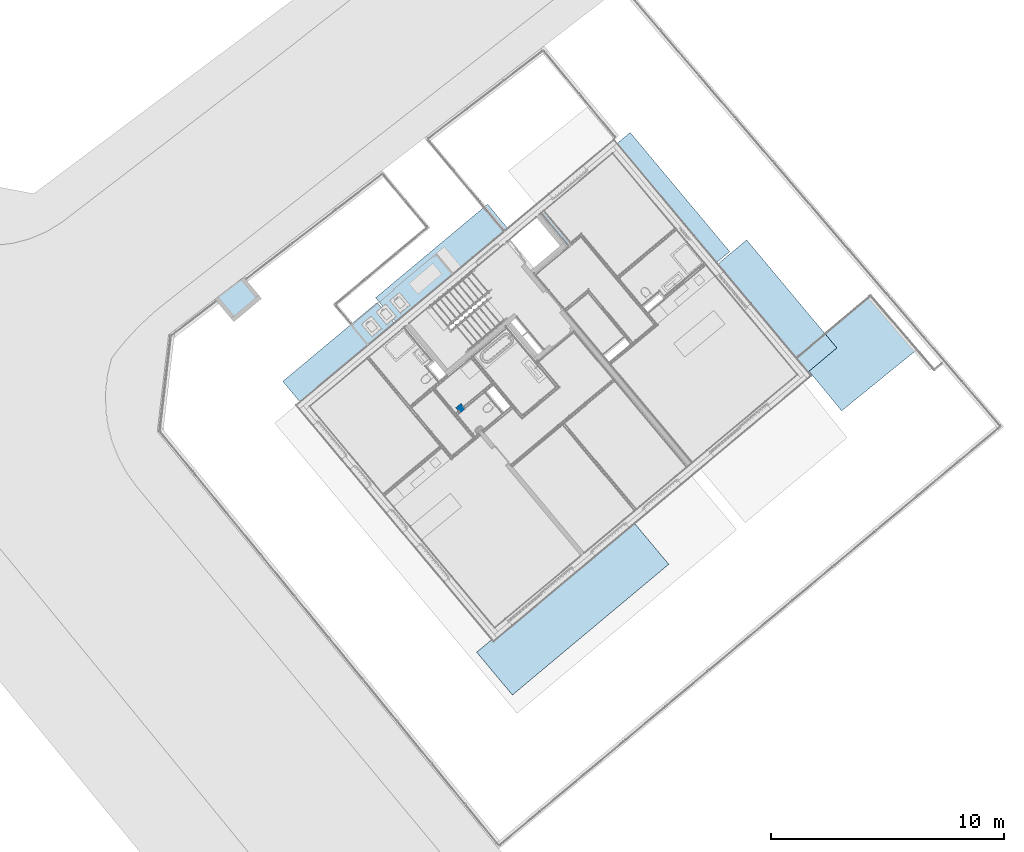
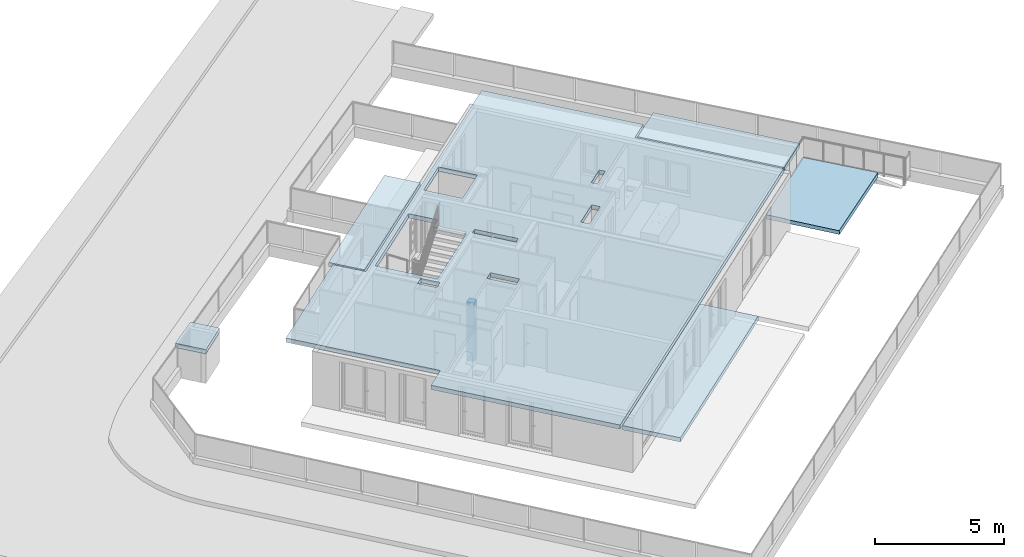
# One storey, part 6 of 75: 6 slabs, 1 column.
"""IFC4 building model written with IfcOpenShell, lengths in metres."""

from ifc_helpers import new_model, entity, si_unit, converted_unit, derived_unit, direction, frame, origin_with_axes, place, context, subcontext, project, spatial, polygons, material, type_object, element, save


model = new_model("IFC4")

# Units and contexts
model_context = context("Model", 3, precision=1e-05, world=origin_with_axes(), true_north=direction((0.0, 1.0)))
body_context = subcontext(model_context, "Body", "Model", "MODEL_VIEW")
ifc_project = project(units=[si_unit("LENGTHUNIT", "METRE"), si_unit("AREAUNIT", "SQUARE_METRE"), si_unit("VOLUMEUNIT", "CUBIC_METRE"), converted_unit("PLANEANGLEUNIT", "DEGREE", entity("IfcPlaneAngleMeasure", 0.0174532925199), si_unit("PLANEANGLEUNIT", "RADIAN"), dimensions=[0, 0, 0, 0, 0, 0, 0]), converted_unit("TIMEUNIT", "Year", entity("IfcTimeMeasure", 31556926.0), si_unit("TIMEUNIT", "SECOND"), dimensions=[0, 0, 1, 0, 0, 0, 0]), si_unit("MASSUNIT", "GRAM", prefix="KILO"), si_unit("THERMODYNAMICTEMPERATUREUNIT", "DEGREE_CELSIUS"), si_unit("LUMINOUSINTENSITYUNIT", "LUMEN"), si_unit("ENERGYUNIT", "JOULE", prefix="MEGA"), derived_unit("THERMALCONDUCTANCEUNIT", [(si_unit("POWERUNIT", "WATT"), 1), (si_unit("LENGTHUNIT", "METRE"), -1), (si_unit("THERMODYNAMICTEMPERATUREUNIT", "KELVIN"), -1)]), derived_unit("SPECIFICHEATCAPACITYUNIT", [(si_unit("ENERGYUNIT", "JOULE"), 1), (si_unit("MASSUNIT", "GRAM", prefix="KILO"), -1), (si_unit("THERMODYNAMICTEMPERATUREUNIT", "KELVIN"), -1)]), derived_unit("MASSDENSITYUNIT", [(si_unit("MASSUNIT", "GRAM", prefix="KILO"), 1), (si_unit("VOLUMEUNIT", "CUBIC_METRE"), -1)])], contexts=[model_context])

# Site, building, storey
site_placement = place(None, frame((-0.00153261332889, -0.00661245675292, 0.0), z_axis=(0.0, 0.0, 1.0), x_axis=(1.0, 0.0, 0.0)))
site = spatial("IfcSite", under=ifc_project, at=site_placement, Name="Gelände", CompositionType="ELEMENT")
building_placement = place(site_placement, origin_with_axes())
building = spatial("IfcBuilding", under=site, at=building_placement, Name="Gebäude", CompositionType="ELEMENT")
storey_placement = place(building_placement, frame((0.0, 0.0, -0.22), z_axis=(0.0, 0.0, 1.0), x_axis=(1.0, 0.0, 0.0)))
storey = spatial("IfcBuildingStorey", under=building, at=storey_placement, Name="EG", CompositionType="ELEMENT", Elevation=-0.22)

# Column
ifc_material_1 = material(Name="Stahlbeton")
column_type = type_object("IfcColumnType", Name="Stahlbeton 300 x 300", PredefinedType="NOTDEFINED")
column_placement = place(storey_placement, frame((-1.63508592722, 18.8845477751, 0.0), z_axis=(0.0, 0.0, 1.0), x_axis=(0.776862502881, 0.62967027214, 0.0)))
element("IfcColumn", 1, at=column_placement, inside=storey, type_object=column_type, material=ifc_material_1, Name="Stütze-002", PredefinedType="NOTDEFINED", context=body_context, shape_type="Tessellation", body=[
    polygons([(0.15, -0.15, 2.76), (-0.15, -0.15, 2.76), (-0.15, -0.15, 0.0), (0.15, -0.15, 0.0), (0.15, 0.15, 2.76), (-0.15, 0.15, 2.76), (-0.15, 0.15, 0.0), (0.15, 0.15, 0.0)], [[[1, 2, 3, 4]], [[5, 6, 2, 1]], [[2, 6, 7, 3]], [[8, 4, 3, 7]], [[5, 1, 4, 8]], [[6, 5, 8, 7]]], closed=True),
])

# Space
space_placement = place(storey_placement, frame((13.4528825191, 20.3252443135, 0.0), z_axis=(0.0, 0.0, 1.0), x_axis=(-0.766923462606, -0.641738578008, 0.0)))
space = spatial("IfcSpace", under=storey, at=space_placement, CompositionType="ELEMENT", PredefinedType="NOTDEFINED")

# Slabs
ifc_material_2 = material(Name="Stahlbeton Decke Garage")
slab_type_1 = type_object("IfcSlabType", Name="Stahlbeton Decke Garage 200", PredefinedType="NOTDEFINED")
slab_1_placement = place(space_placement, frame((-4.12513855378, -1.05202879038, 0.2), z_axis=(0.0, 0.0, 1.0), x_axis=(0.999994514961, 0.00331210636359, 0.0)))
element("IfcSlab", 2, at=slab_1_placement, inside=space, type_object=slab_type_1, material=ifc_material_2, Name="Dach-001", PredefinedType="NOTDEFINED", context=body_context, shape_type="Tessellation", body=[
    polygons([(-4.86112945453e-08, 2.05929495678e-09, 0.2), (4.12860034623, 1.82519066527e-09, 0.2), (4.1286003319, 0.823592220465, 0.2), (4.1553898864, 0.823502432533, 0.2), (4.18309645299, 3.02250345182, 0.2), (-0.0247454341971, 3.09726175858, 0.2), (4.12860034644, 1.47148249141e-09, -1.86264337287e-10), (-4.88661697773e-08, 2.32665975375e-09, -1.86264337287e-10), (4.12860033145, 0.823592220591, 0.0480745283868), (4.1286003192, 1.49642999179, -1.86264337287e-10), (4.14783615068, 3.0231299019, -1.86264337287e-10), (-0.024745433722, 3.09726175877, -1.86264337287e-10)], [[[1, 2, 3, 4, 5, 6]], [[7, 2, 1, 8]], [[9, 3, 2, 7, 10]], [[9, 4, 3]], [[11, 5, 4, 9, 10]], [[12, 6, 5, 11]], [[8, 1, 6, 12]], [[11, 10, 7, 8, 12]]], closed=True),
])
ifc_material_3 = material(Name="Stahlbeton Decke")
slab_type_2 = type_object("IfcSlabType", Name="Stahlbeton Decke 200", PredefinedType="NOTDEFINED")
slab_2_placement = place(storey_placement, frame((-12.0195879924, 23.666422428, 1.6), z_axis=(0.0, 0.0, 1.0), x_axis=(1.0, 0.0, 0.0)))
element("IfcSlab", 3, at=slab_2_placement, inside=storey, type_object=slab_type_2, material=ifc_material_3, Name="Decke-005", PredefinedType="NOTDEFINED", context=body_context, shape_type="Tessellation", body=[
    polygons([(0.0, 0.0, 0.0), (0.0, 0.0, -0.2), (-0.138125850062, -0.115417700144, -0.2), (-0.138125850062, -0.115417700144, 0.0), (1.09431296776, 0.841477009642, 0.0), (1.09431296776, 0.841477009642, -0.2), (1.86540377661, -0.0818256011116, -0.2), (0.669095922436, -1.0814582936, -0.2), (0.669095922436, -1.0814582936, 0.0), (1.86540377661, -0.0818256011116, 0.0)], [[[1, 2, 3, 4]], [[5, 6, 2, 1]], [[3, 2, 6, 7, 8]], [[4, 3, 8, 9]], [[5, 1, 4, 9, 10]], [[10, 7, 6, 5]], [[9, 8, 7, 10]]], closed=True),
])
slab_3_placement = place(storey_placement, frame((-9.25321199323, 20.0359436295, 2.96), z_axis=(0.0, 0.0, 1.0), x_axis=(1.0, 0.0, 0.0)))
element("IfcSlab", 4, at=slab_3_placement, inside=storey, type_object=slab_type_2, material=ifc_material_3, Name="Decke-005", PredefinedType="NOTDEFINED", context=body_context, shape_type="Tessellation", body=[
    polygons([(0.0, 0.0, 0.0), (0.0, 0.0, -0.2), (4.07267164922, -4.87395936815, -0.2), (4.07267164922, -4.87395936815, 0.0), (4.04381976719, 3.37900849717, 0.0), (4.04381976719, 3.37900849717, -0.2), (4.91680107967, 2.33427034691, -0.2), (14.885464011, 10.6640670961, -0.2), (19.1505919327, 5.55982352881, -0.2), (18.4306387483, 4.95823093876, -0.2), (22.3482166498, 0.269879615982, -0.2), (8.2486701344, -11.5272777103, -0.2), (3.25844222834, -5.55522897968, -0.2), (5.42163711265, 2.49501373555, -0.2), (7.06314257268, 0.530546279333, -0.2), (9.53351274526, 2.59478313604, -0.2), (8.66151722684, 3.63824574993, -0.2), (9.05053288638, 3.96327272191, -0.2), (8.28112859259, 4.88415112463, -0.2), (6.51828722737, 0.870689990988, -0.2), (6.24543082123, 0.642691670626, -0.2), (6.75554469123, 0.0322142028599, -0.2), (7.02829317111, 0.260341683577, -0.2), (11.1206759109, 1.31292774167, -0.2), (9.96625314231, 2.69581328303, -0.2), (9.77780938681, 2.53828509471, -0.2), (10.9327816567, 1.15607498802, -0.2), (14.7058636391, 1.85864802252, -0.2), (13.768001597, 1.07497219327, -0.2), (13.9921729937, 0.806436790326, -0.2), (14.930655, 1.58962953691, -0.2), (16.2921456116, 3.55574217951, -0.2), (16.1334349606, 3.74660559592, -0.2), (15.4451269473, 3.17145666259, -0.2), (15.6042936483, 2.98097432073, -0.2), (9.80600446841, -1.06753850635, -0.2), (9.03663065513, -0.146792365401, -0.2), (8.73331585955, -0.400241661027, -0.2), (9.50268967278, -1.32098780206, -0.2), (11.8825374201, 5.80764906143, -0.2), (10.8590745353, 7.03247564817, -0.2), (9.59311855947, 5.97464512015, -0.2), (10.6160002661, 4.74933290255, -0.2), (3.25844222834, -5.55522897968, 0.0), (8.2486701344, -11.5272777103, 0.0), (22.3482166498, 0.269879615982, 0.0), (18.4306387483, 4.95823093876, 0.0), (19.1505919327, 5.55982352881, 0.0), (14.885464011, 10.6640670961, 0.0), (4.91680107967, 2.33427034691, 0.0), (9.53351274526, 2.59478313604, 0.0), (7.06314257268, 0.530546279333, 0.0), (5.42163711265, 2.49501373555, 0.0), (8.28112859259, 4.88415112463, 0.0), (9.05053288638, 3.96327272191, 0.0), (8.66151722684, 3.63824574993, 0.0), (6.75554469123, 0.0322142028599, 0.0), (6.24543082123, 0.642691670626, 0.0), (6.51828722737, 0.870689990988, 0.0), (7.02829317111, 0.260341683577, 0.0), (9.77780938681, 2.53828509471, 0.0), (9.96625314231, 2.69581328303, 0.0), (11.1206759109, 1.31292774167, 0.0), (10.9327816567, 1.15607498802, 0.0), (13.9921729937, 0.806436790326, 0.0), (13.768001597, 1.07497219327, 0.0), (14.7058636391, 1.85864802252, 0.0), (14.930655, 1.58962953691, 0.0), (15.4451269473, 3.17145666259, 0.0), (16.1334349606, 3.74660559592, 0.0), (16.2921456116, 3.55574217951, 0.0), (15.6042936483, 2.98097432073, 0.0), (8.73331585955, -0.400241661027, 0.0), (9.03663065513, -0.146792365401, 0.0), (9.80600446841, -1.06753850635, 0.0), (9.50268967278, -1.32098780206, 0.0), (9.59311855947, 5.97464512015, 0.0), (10.8590745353, 7.03247564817, 0.0), (11.8825374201, 5.80764906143, 0.0), (10.6160002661, 4.74933290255, 0.0)], [[[1, 2, 3, 4]], [[5, 6, 2, 1]], [[3, 2, 6, 7, 8, 9, 10, 11, 12, 13], [14, 15, 16, 17, 18, 19], [20, 21, 22, 23], [24, 25, 26, 27], [28, 29, 30, 31], [32, 33, 34, 35], [36, 37, 38, 39], [40, 41, 42, 43]], [[4, 3, 13, 44]], [[5, 1, 4, 44, 45, 46, 47, 48, 49, 50], [51, 52, 53, 54, 55, 56], [57, 58, 59, 60], [61, 62, 63, 64], [65, 66, 67, 68], [69, 70, 71, 72], [73, 74, 75, 76], [77, 78, 79, 80]], [[50, 7, 6, 5]], [[49, 8, 7, 50]], [[48, 9, 8, 49]], [[47, 10, 9, 48]], [[46, 11, 10, 47]], [[45, 12, 11, 46]], [[44, 13, 12, 45]], [[52, 15, 14, 53]], [[51, 16, 15, 52]], [[56, 17, 16, 51]], [[55, 18, 17, 56]], [[54, 19, 18, 55]], [[53, 14, 19, 54]], [[58, 21, 20, 59]], [[57, 22, 21, 58]], [[60, 23, 22, 57]], [[59, 20, 23, 60]], [[62, 25, 24, 63]], [[61, 26, 25, 62]], [[64, 27, 26, 61]], [[63, 24, 27, 64]], [[66, 29, 28, 67]], [[65, 30, 29, 66]], [[68, 31, 30, 65]], [[67, 28, 31, 68]], [[70, 33, 32, 71]], [[69, 34, 33, 70]], [[72, 35, 34, 69]], [[71, 32, 35, 72]], [[74, 37, 36, 75]], [[73, 38, 37, 74]], [[76, 39, 38, 73]], [[75, 36, 39, 76]], [[78, 41, 40, 79]], [[77, 42, 41, 78]], [[80, 43, 42, 77]], [[79, 40, 43, 80]]], closed=True),
])
slab_4_placement = place(storey_placement, frame((-5.27624485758, 23.6197220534, 2.96), z_axis=(0.0, 0.0, 1.0), x_axis=(1.0, 0.0, 0.0)))
element("IfcSlab", 5, at=slab_4_placement, inside=storey, type_object=slab_type_2, material=ifc_material_3, Name="Decke-005", PredefinedType="NOTDEFINED", context=body_context, shape_type="Tessellation", body=[
    polygons([(0.0, 0.0, 0.0), (0.0, 0.0, -0.2), (0.949926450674, -1.13682204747, -0.2), (0.949926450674, -1.13682204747, 0.0), (4.79829035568, 4.00788462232, 0.0), (4.79829035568, 4.00788462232, -0.2), (5.74745013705, 2.87198008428, -0.2), (5.74745013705, 2.87198008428, 0.0)], [[[1, 2, 3, 4]], [[5, 6, 2, 1]], [[3, 2, 6, 7]], [[4, 3, 7, 8]], [[5, 1, 4, 8]], [[8, 7, 6, 5]]], closed=True),
])
slab_5_placement = place(storey_placement, frame((-0.94615598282, 8.43364053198, 2.96), z_axis=(0.0, 0.0, 1.0), x_axis=(1.0, 0.0, 0.0)))
element("IfcSlab", 6, at=slab_5_placement, inside=storey, type_object=slab_type_2, material=ifc_material_3, Name="Decke-005", PredefinedType="NOTDEFINED", context=body_context, shape_type="Tessellation", body=[
    polygons([(0.0, 0.0, 0.0), (0.0, 0.0, -0.2), (1.5312027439, -1.83370925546, -0.2), (1.5312027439, -1.83370925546, 0.0), (6.70005772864, 5.60281895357, 0.0), (6.70005772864, 5.60281895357, -0.2), (8.2319308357, 3.76678408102, -0.2), (8.2319308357, 3.76678408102, 0.0)], [[[1, 2, 3, 4]], [[5, 6, 2, 1]], [[3, 2, 6, 7]], [[4, 3, 7, 8]], [[5, 1, 4, 8]], [[8, 7, 6, 5]]], closed=True),
])
slab_6_placement = place(storey_placement, frame((13.1563939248, 20.357120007, 2.96), z_axis=(0.0, 0.0, 1.0), x_axis=(1.0, 0.0, 0.0)))
element("IfcSlab", 7, at=slab_6_placement, inside=storey, type_object=slab_type_2, material=ifc_material_3, Name="Decke-005", PredefinedType="NOTDEFINED", context=body_context, shape_type="Tessellation", body=[
    polygons([(0.0, 0.0, 0.0), (0.0, 0.0, -0.2), (1.33147157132, 1.11257523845, -0.2), (1.33147157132, 1.11257523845, 0.0), (-3.86628113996, 4.62696205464, 0.0), (-3.86628113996, 4.62696205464, -0.2), (-2.53479063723, 5.73955311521, -0.2), (-2.53479063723, 5.73955311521, 0.0)], [[[1, 2, 3, 4]], [[5, 6, 2, 1]], [[3, 2, 6, 7]], [[4, 3, 7, 8]], [[5, 1, 4, 8]], [[8, 7, 6, 5]]], closed=True),
])

save(model, "model.ifc")
